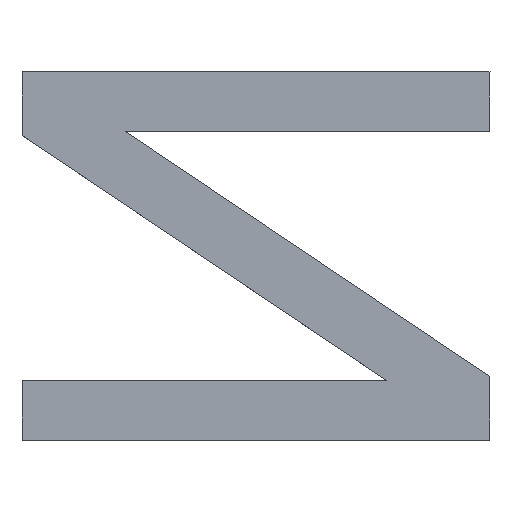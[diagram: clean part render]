
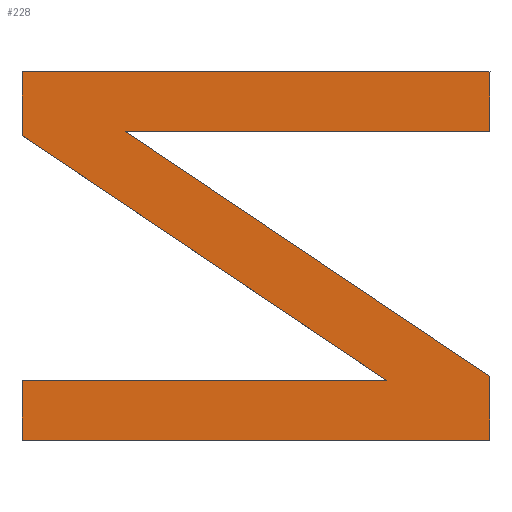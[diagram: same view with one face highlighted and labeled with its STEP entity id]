
A CAD part, top view. The second image highlights one B-rep face of the part: STEP entity #228.
In plain terms, the highlighted planar face has unit normal (0, 0, 1).
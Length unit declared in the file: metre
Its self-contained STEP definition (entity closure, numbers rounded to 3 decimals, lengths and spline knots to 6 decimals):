
#52=ORIENTED_EDGE('',*,*,#101,.T.);
#53=ORIENTED_EDGE('',*,*,#99,.T.);
#54=ORIENTED_EDGE('',*,*,#96,.T.);
#55=ORIENTED_EDGE('',*,*,#93,.T.);
#56=ORIENTED_EDGE('',*,*,#90,.T.);
#57=ORIENTED_EDGE('',*,*,#87,.T.);
#58=ORIENTED_EDGE('',*,*,#84,.T.);
#59=ORIENTED_EDGE('',*,*,#81,.T.);
#60=ORIENTED_EDGE('',*,*,#78,.T.);
#61=ORIENTED_EDGE('',*,*,#75,.T.);
#75=EDGE_CURVE('',#102,#105,#125,.T.);
#78=EDGE_CURVE('',#106,#102,#128,.F.);
#81=EDGE_CURVE('',#108,#106,#131,.F.);
#84=EDGE_CURVE('',#110,#108,#134,.T.);
#87=EDGE_CURVE('',#112,#110,#137,.F.);
#90=EDGE_CURVE('',#114,#112,#140,.F.);
#93=EDGE_CURVE('',#116,#114,#143,.T.);
#96=EDGE_CURVE('',#118,#116,#146,.T.);
#99=EDGE_CURVE('',#120,#118,#149,.T.);
#101=EDGE_CURVE('',#105,#120,#151,.T.);
#102=VERTEX_POINT('',#306);
#105=VERTEX_POINT('',#311);
#106=VERTEX_POINT('',#315);
#108=VERTEX_POINT('',#321);
#110=VERTEX_POINT('',#327);
#112=VERTEX_POINT('',#333);
#114=VERTEX_POINT('',#339);
#116=VERTEX_POINT('',#345);
#118=VERTEX_POINT('',#351);
#120=VERTEX_POINT('',#357);
#125=LINE('',#312,#155);
#128=LINE('',#318,#158);
#131=LINE('',#324,#161);
#134=LINE('',#330,#164);
#137=LINE('',#336,#167);
#140=LINE('',#342,#170);
#143=LINE('',#348,#173);
#146=LINE('',#354,#176);
#149=LINE('',#360,#179);
#151=LINE('',#363,#181);
#155=VECTOR('',#254,1.);
#158=VECTOR('',#259,1.);
#161=VECTOR('',#264,1.);
#164=VECTOR('',#269,1.);
#167=VECTOR('',#274,1.);
#170=VECTOR('',#279,1.);
#173=VECTOR('',#284,1.);
#176=VECTOR('',#289,1.);
#179=VECTOR('',#294,1.);
#181=VECTOR('',#298,1.);
#192=EDGE_LOOP('',(#52,#53,#54,#55,#56,#57,#58,#59,#60,#61));
#204=FACE_BOUND('',#192,.T.);
#216=PLANE('',#245);
#228=ADVANCED_FACE('',(#204),#216,.F.);
#245=AXIS2_PLACEMENT_3D('',#364,#299,#300);
#254=DIRECTION('',(-1.,0.,0.));
#259=DIRECTION('',(0.,-1.,0.));
#264=DIRECTION('',(-1.,0.,0.));
#269=DIRECTION('',(-0.83,0.558,0.));
#274=DIRECTION('',(0.,-1.,0.));
#279=DIRECTION('',(-1.,0.,0.));
#284=DIRECTION('',(0.,-1.,0.));
#289=DIRECTION('',(-1.,0.,0.));
#294=DIRECTION('',(0.83,-0.558,0.));
#298=DIRECTION('',(0.,-1.,0.));
#299=DIRECTION('',(0.,0.,-1.));
#300=DIRECTION('',(0.,-1.,0.));
#306=CARTESIAN_POINT('',(-0.012988,0.005238,-0.03));
#311=CARTESIAN_POINT('',(-0.013923,0.005238,-0.03));
#312=CARTESIAN_POINT('',(-0.013456,0.005238,-0.03));
#315=CARTESIAN_POINT('',(-0.012988,0.005118,-0.03));
#318=CARTESIAN_POINT('',(-0.012988,0.00487,-0.03));
#321=CARTESIAN_POINT('',(-0.013716,0.005118,-0.03));
#324=CARTESIAN_POINT('',(-0.013456,0.005118,-0.03));
#327=CARTESIAN_POINT('',(-0.012988,0.004629,-0.03));
#330=CARTESIAN_POINT('',(-0.012988,0.004629,-0.03));
#333=CARTESIAN_POINT('',(-0.012988,0.004502,-0.03));
#336=CARTESIAN_POINT('',(-0.012988,0.00487,-0.03));
#339=CARTESIAN_POINT('',(-0.013923,0.004502,-0.03));
#342=CARTESIAN_POINT('',(-0.013456,0.004502,-0.03));
#345=CARTESIAN_POINT('',(-0.013923,0.004621,-0.03));
#348=CARTESIAN_POINT('',(-0.013923,0.00487,-0.03));
#351=CARTESIAN_POINT('',(-0.013196,0.004621,-0.03));
#354=CARTESIAN_POINT('',(-0.013456,0.004621,-0.03));
#357=CARTESIAN_POINT('',(-0.013923,0.00511,-0.03));
#360=CARTESIAN_POINT('',(-0.013923,0.00511,-0.03));
#363=CARTESIAN_POINT('',(-0.013923,0.00487,-0.03));
#364=CARTESIAN_POINT('',(-0.013456,0.00487,-0.03));
